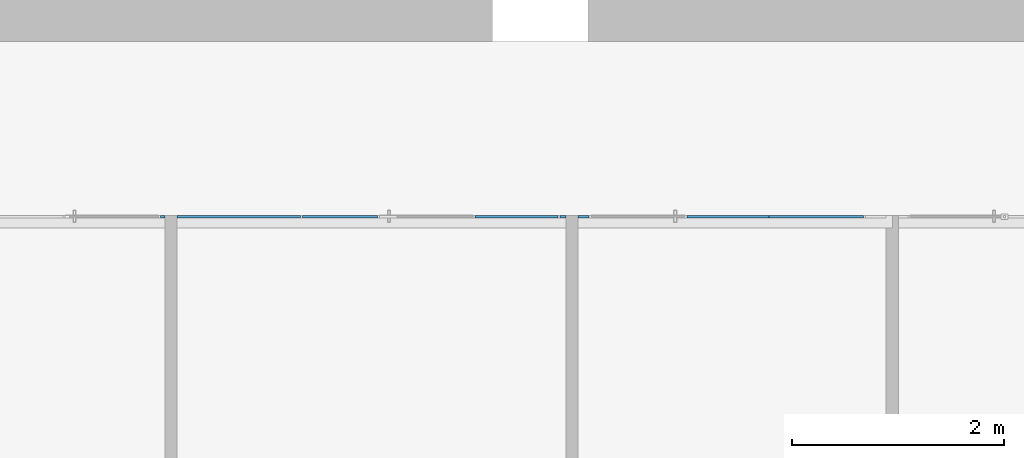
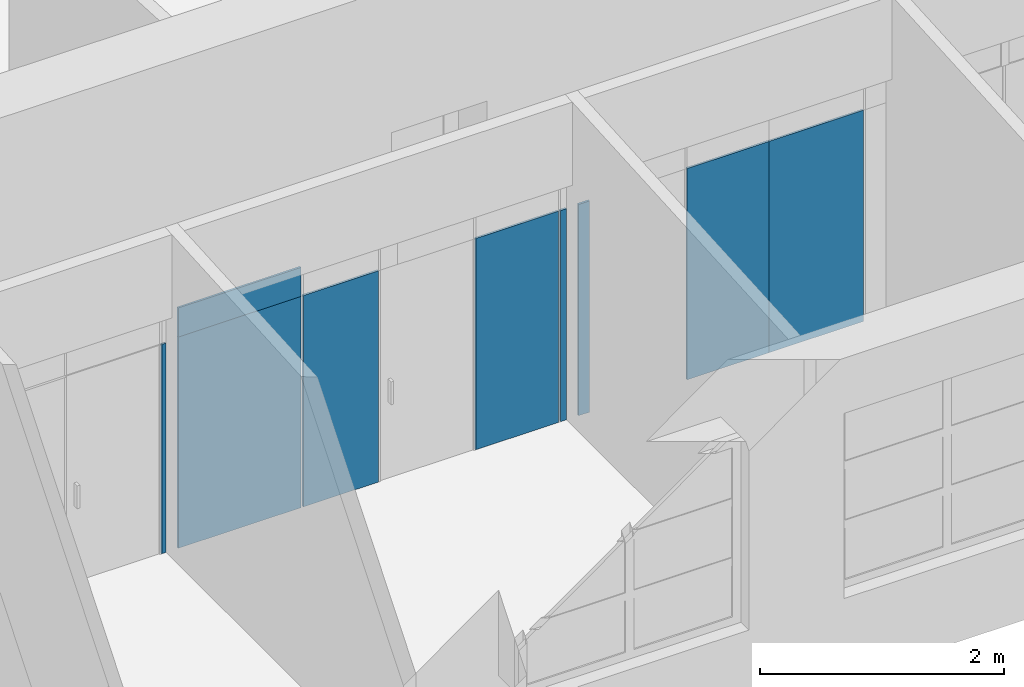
# One storey, part 12 of 46: 9 plates, 3 elements without a shape of their own.
"""IFC2X3 building model written with IfcOpenShell, lengths in millimetres."""

from ifc_helpers import new_model, entity, si_unit, converted_unit, derived_unit, direction, frame, origin, origin_2d_with_axis, place, context, subcontext, project, spatial, rectangle, extrude, source, transform, mapped, material, layer, layer_set, layer_usage, type_object, type_shapes, element, aggregate, save


model = new_model("IFC2X3")

# Units and contexts
model_context = context("Model", 3, precision=0.01, world=origin(), true_north=direction((6.12303176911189e-17, 1.0)))
body_context = subcontext(model_context, "Body", "Model", "MODEL_VIEW")
ifc_project = project(units=[si_unit("LENGTHUNIT", "METRE", prefix="MILLI"), si_unit("AREAUNIT", "SQUARE_METRE"), si_unit("VOLUMEUNIT", "CUBIC_METRE"), converted_unit("PLANEANGLEUNIT", "DEGREE", entity("IfcRatioMeasure", 0.0174532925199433), si_unit("PLANEANGLEUNIT", "RADIAN"), dimensions=[0, 0, 0, 0, 0, 0, 0]), si_unit("MASSUNIT", "GRAM", prefix="KILO"), derived_unit("MASSDENSITYUNIT", [(si_unit("MASSUNIT", "GRAM", prefix="KILO"), 1), (si_unit("LENGTHUNIT", "METRE"), -3)]), si_unit("TIMEUNIT", "SECOND"), si_unit("FREQUENCYUNIT", "HERTZ"), si_unit("THERMODYNAMICTEMPERATUREUNIT", "DEGREE_CELSIUS"), derived_unit("THERMALTRANSMITTANCEUNIT", [(si_unit("MASSUNIT", "GRAM", prefix="KILO"), 1), (si_unit("THERMODYNAMICTEMPERATUREUNIT", "KELVIN"), -1), (si_unit("TIMEUNIT", "SECOND"), -3)]), derived_unit("VOLUMETRICFLOWRATEUNIT", [(si_unit("LENGTHUNIT", "METRE"), 3), (si_unit("TIMEUNIT", "SECOND"), -1)]), si_unit("ELECTRICCURRENTUNIT", "AMPERE"), si_unit("ELECTRICVOLTAGEUNIT", "VOLT"), si_unit("POWERUNIT", "WATT"), si_unit("FORCEUNIT", "NEWTON", prefix="KILO"), si_unit("ILLUMINANCEUNIT", "LUX"), si_unit("LUMINOUSFLUXUNIT", "LUMEN"), si_unit("LUMINOUSINTENSITYUNIT", "CANDELA"), derived_unit("USERDEFINED", [(si_unit("MASSUNIT", "GRAM", prefix="KILO"), -1), (si_unit("LENGTHUNIT", "METRE"), -2), (si_unit("TIMEUNIT", "SECOND"), 3), (si_unit("LUMINOUSFLUXUNIT", "LUMEN"), 1)]), derived_unit("LINEARVELOCITYUNIT", [(si_unit("LENGTHUNIT", "METRE"), 1), (si_unit("TIMEUNIT", "SECOND"), -1)]), si_unit("PRESSUREUNIT", "PASCAL"), derived_unit("USERDEFINED", [(si_unit("LENGTHUNIT", "METRE"), -2), (si_unit("MASSUNIT", "GRAM", prefix="KILO"), 1), (si_unit("TIMEUNIT", "SECOND"), -2)])], contexts=[model_context])

# Site, building, storey
site_placement = place(None, frame((-151.875543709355, 2715.0, 0.0)))
site = spatial("IfcSite", under=ifc_project, at=site_placement, Name="Surface", CompositionType="ELEMENT")
building_placement = place(site_placement, origin())
building = spatial("IfcBuilding", under=site, at=building_placement, CompositionType="ELEMENT")
storey_placement = place(building_placement, frame((0.0, 0.0, 10060.0)))
storey = spatial("IfcBuildingStorey", under=building, at=storey_placement, Name="4 korrus", CompositionType="ELEMENT", Elevation=10060.0000000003)

# Curtain wall, plate
curtain_wall_type_1 = type_object("IfcCurtainWallType", Name="Curtain Wall:Klaassein KLS-26", PredefinedType="NOTDEFINED")
curtain_wall_1_placement = place(storey_placement, frame((0.0, 0.0, -10060.0)))
curtain_wall_1 = element("IfcCurtainWall", 1, at=curtain_wall_1_placement, inside=storey, type_object=curtain_wall_type_1, Name="Curtain Wall:Klaassein KLS-26", ObjectType="Curtain Wall:Klaassein KLS-26")
ifc_material = material(Name="<Unnamed>")
ifc_layer = layer(ifc_material, 20.0)
ifc_layer_set = layer_set([ifc_layer], Name="Curtain Wall:Klaassein KLS-01")
ifc_layer_usage_1 = layer_usage(ifc_layer_set, "AXIS3", "POSITIVE", 0.0)
plate_type_1 = type_object("IfcPlateType", Name="Glazed", PredefinedType="CURTAIN_PANEL", material=ifc_layer_set)
shared_shape_1 = source(origin(), body_context, "Body", "SweptSolid", [
    extrude(rectangle(XDim=20.0, YDim=890.000000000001, at=origin_2d_with_axis()), frame((0.0, 0.0, 0.0), z_axis=(0.0, 0.0, 1.0), x_axis=(0.0, 1.0, 0.0)), (0.0, 0.0, 1.0), 2110.0),
])
type_shapes(plate_type_1, [shared_shape_1])
plate_1_placement = place(curtain_wall_1_placement, frame((15144.5647267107, 4355.19562687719, 10060.0)))
plate_1 = element("IfcPlate", 2, at=plate_1_placement, type_object=plate_type_1, material=ifc_layer_usage_1, Name="System Panel:Glazed", ObjectType="Glazed", context=body_context, shape_type="MappedRepresentation", body=[
    mapped(shared_shape_1, transform((0.0, 0.0, 0.0), scale=1.0)),
])

curtain_wall_type_2 = type_object("IfcCurtainWallType", Name="Curtain Wall:Klaassein KLS-24", PredefinedType="NOTDEFINED")
curtain_wall_2_placement = place(storey_placement, frame((0.0, 0.0, -10060.0)))
curtain_wall_2 = element("IfcCurtainWall", 3, at=curtain_wall_2_placement, inside=storey, type_object=curtain_wall_type_2, Name="Curtain Wall:Klaassein KLS-24", ObjectType="Curtain Wall:Klaassein KLS-24")
ifc_layer_usage_2 = layer_usage(ifc_layer_set, "AXIS3", "POSITIVE", 0.0)
plate_type_2 = type_object("IfcPlateType", Name="Glazed", PredefinedType="CURTAIN_PANEL", material=ifc_layer_set)
shared_shape_2 = source(origin(), body_context, "Body", "SweptSolid", [
    extrude(rectangle(XDim=20.0, YDim=39.9999999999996, at=origin_2d_with_axis()), frame((0.0, 0.0, 0.0), z_axis=(0.0, 0.0, 1.0), x_axis=(0.0, 1.0, 0.0)), (0.0, 0.0, 1.0), 2090.0),
])
type_shapes(plate_type_2, [shared_shape_2])
plate_2_placement = place(curtain_wall_2_placement, frame((8981.56472640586, 4355.0449339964, 10060.0), z_axis=(0.0, 0.0, 1.0), x_axis=(-1.0, 0.0, 0.0)))
plate_2 = element("IfcPlate", 4, at=plate_2_placement, type_object=plate_type_2, material=ifc_layer_usage_2, Name="System Panel:Glazed", ObjectType="Glazed", context=body_context, shape_type="MappedRepresentation", body=[
    mapped(shared_shape_2, transform((0.0, 0.0, 0.0), scale=1.0)),
])
aggregate(curtain_wall_2, [plate_2])

# Plate
ifc_layer_usage_3 = layer_usage(ifc_layer_set, "AXIS3", "POSITIVE", 0.0)
plate_type_3 = type_object("IfcPlateType", Name="Glazed", PredefinedType="CURTAIN_PANEL", material=ifc_layer_set)
shared_shape_3 = source(origin(), body_context, "Body", "SweptSolid", [
    extrude(rectangle(XDim=20.0, YDim=104.000000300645, at=origin_2d_with_axis()), frame((0.0, 0.0, 0.0), z_axis=(0.0, 0.0, 1.0), x_axis=(0.0, 1.0, 0.0)), (0.0, 0.0, 1.0), 2110.0),
])
type_shapes(plate_type_3, [shared_shape_3])
plate_3_placement = place(curtain_wall_1_placement, frame((12951.5647265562, 4355.1956268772, 10060.0)))
plate_3 = element("IfcPlate", 5, at=plate_3_placement, type_object=plate_type_3, material=ifc_layer_usage_3, Name="System Panel:Glazed", ObjectType="Glazed", context=body_context, shape_type="MappedRepresentation", body=[
    mapped(shared_shape_3, transform((0.0, 0.0, 0.0), scale=1.0)),
])

ifc_layer_usage_4 = layer_usage(ifc_layer_set, "AXIS3", "POSITIVE", 0.0)
plate_type_4 = type_object("IfcPlateType", Name="Glazed", PredefinedType="CURTAIN_PANEL", material=ifc_layer_set)
shared_shape_4 = source(origin(), body_context, "Body", "SweptSolid", [
    extrude(rectangle(XDim=20.0, YDim=775.000000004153, at=origin_2d_with_axis()), frame((0.0, 0.0, 0.0), z_axis=(0.0, 0.0, 1.0), x_axis=(0.0, 1.0, 0.0)), (0.0, 0.0, 1.0), 2110.0),
])
type_shapes(plate_type_4, [shared_shape_4])
plate_4_placement = place(curtain_wall_1_placement, frame((14312.0647267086, 4355.1956268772, 10060.0)))
plate_4 = element("IfcPlate", 6, at=plate_4_placement, type_object=plate_type_4, material=ifc_layer_usage_4, Name="System Panel:Glazed", ObjectType="Glazed", context=body_context, shape_type="MappedRepresentation", body=[
    mapped(shared_shape_4, transform((0.0, 0.0, 0.0), scale=1.0)),
])

aggregate(curtain_wall_1, [plate_3, plate_4, plate_1])

# Curtain wall, plates
curtain_wall_type_3 = type_object("IfcCurtainWallType", Name="Curtain Wall:Klaassein KLS-25", PredefinedType="NOTDEFINED")
curtain_wall_3_placement = place(storey_placement, frame((0.0, 0.0, -10060.0)))
curtain_wall_3 = element("IfcCurtainWall", 7, at=curtain_wall_3_placement, inside=storey, type_object=curtain_wall_type_3, Name="Curtain Wall:Klaassein KLS-25", ObjectType="Curtain Wall:Klaassein KLS-25")
ifc_layer_usage_5 = layer_usage(ifc_layer_set, "AXIS3", "POSITIVE", 0.0)
plate_type_5 = type_object("IfcPlateType", Name="Glazed", PredefinedType="CURTAIN_PANEL", material=ifc_layer_set)
shared_shape_5 = source(origin(), body_context, "Body", "SweptSolid", [
    extrude(rectangle(XDim=20.0, YDim=1161.31081940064, at=origin_2d_with_axis()), frame((0.0, 0.0, 0.0), z_axis=(0.0, 0.0, 1.0), x_axis=(0.0, 1.0, 0.0)), (0.0, 0.0, 1.0), 2110.0),
])
type_shapes(plate_type_5, [shared_shape_5])
plate_5_placement = place(curtain_wall_3_placement, frame((9698.22013610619, 4355.19562687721, 10060.0)))
plate_5 = element("IfcPlate", 8, at=plate_5_placement, type_object=plate_type_5, material=ifc_layer_usage_5, Name="System Panel:Glazed", ObjectType="Glazed", context=body_context, shape_type="MappedRepresentation", body=[
    mapped(shared_shape_5, transform((0.0, 0.0, 0.0), scale=1.0)),
])
ifc_layer_usage_6 = layer_usage(ifc_layer_set, "AXIS3", "POSITIVE", 0.0)
plate_type_6 = type_object("IfcPlateType", Name="Glazed", PredefinedType="CURTAIN_PANEL", material=ifc_layer_set)
shared_shape_6 = source(origin(), body_context, "Body", "SweptSolid", [
    extrude(rectangle(XDim=20.0, YDim=708.689180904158, at=origin_2d_with_axis()), frame((0.0, 0.0, 0.0), z_axis=(0.0, 0.0, 1.0), x_axis=(0.0, 1.0, 0.0)), (0.0, 0.0, 1.0), 2110.0),
])
type_shapes(plate_type_6, [shared_shape_6])
plate_6_placement = place(curtain_wall_3_placement, frame((10653.2201362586, 4355.19562687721, 10060.0)))
plate_6 = element("IfcPlate", 9, at=plate_6_placement, type_object=plate_type_6, material=ifc_layer_usage_6, Name="System Panel:Glazed", ObjectType="Glazed", context=body_context, shape_type="MappedRepresentation", body=[
    mapped(shared_shape_6, transform((0.0, 0.0, 0.0), scale=1.0)),
])
ifc_layer_usage_7 = layer_usage(ifc_layer_set, "AXIS3", "POSITIVE", 0.0)
plate_type_7 = type_object("IfcPlateType", Name="Glazed", PredefinedType="CURTAIN_PANEL", material=ifc_layer_set)
shared_shape_7 = source(origin(), body_context, "Body", "SweptSolid", [
    extrude(rectangle(XDim=20.0, YDim=780.0, at=origin_2d_with_axis()), frame((0.0, 0.0, 0.0), z_axis=(0.0, 0.0, 1.0), x_axis=(0.0, 1.0, 0.0)), (0.0, 0.0, 1.0), 2110.0),
])
type_shapes(plate_type_7, [shared_shape_7])
plate_7_placement = place(curtain_wall_3_placement, frame((12317.5647267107, 4355.1956268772, 10060.0)))
plate_7 = element("IfcPlate", 10, at=plate_7_placement, type_object=plate_type_7, material=ifc_layer_usage_7, Name="System Panel:Glazed", ObjectType="Glazed", context=body_context, shape_type="MappedRepresentation", body=[
    mapped(shared_shape_7, transform((0.0, 0.0, 0.0), scale=1.0)),
])
ifc_layer_usage_8 = layer_usage(ifc_layer_set, "AXIS3", "POSITIVE", 0.0)
plate_type_8 = type_object("IfcPlateType", Name="Glazed", PredefinedType="CURTAIN_PANEL", material=ifc_layer_set)
shared_shape_8 = source(origin(), body_context, "Body", "SweptSolid", [
    extrude(rectangle(XDim=20.0, YDim=55.9999996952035, at=origin_2d_with_axis()), frame((0.0, 0.0, 0.0), z_axis=(0.0, 0.0, 1.0), x_axis=(0.0, 1.0, 0.0)), (0.0, 0.0, 1.0), 2110.0),
])
type_shapes(plate_type_8, [shared_shape_8])
plate_8_placement = place(curtain_wall_3_placement, frame((12755.5647265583, 4355.1956268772, 10060.0)))
plate_8 = element("IfcPlate", 11, at=plate_8_placement, type_object=plate_type_8, material=ifc_layer_usage_8, Name="System Panel:Glazed", ObjectType="Glazed", context=body_context, shape_type="MappedRepresentation", body=[
    mapped(shared_shape_8, transform((0.0, 0.0, 0.0), scale=1.0)),
])
ifc_layer_usage_9 = layer_usage(ifc_layer_set, "AXIS3", "POSITIVE", 0.0)
plate_type_9 = type_object("IfcPlateType", Name="Glazed", PredefinedType="CURTAIN_PANEL", material=ifc_layer_set)
shared_shape_9 = source(origin(), body_context, "Body", "SweptSolid", [
    extrude(rectangle(XDim=20.0, YDim=1161.31081940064, at=origin_2d_with_axis()), frame((0.0, 0.0, 0.0), z_axis=(0.0, 0.0, 1.0), x_axis=(0.0, 1.0, 0.0)), (0.0, 0.0, 1.0), 289.999999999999),
])
type_shapes(plate_type_9, [shared_shape_9])
plate_9_placement = place(curtain_wall_3_placement, frame((9698.22013610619, 4355.19562687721, 12170.0)))
plate_9 = element("IfcPlate", 12, at=plate_9_placement, type_object=plate_type_9, material=ifc_layer_usage_9, Name="System Panel:Glazed", ObjectType="Glazed", context=body_context, shape_type="MappedRepresentation", body=[
    mapped(shared_shape_9, transform((0.0, 0.0, 0.0), scale=1.0)),
])
aggregate(curtain_wall_3, [plate_5, plate_6, plate_7, plate_8, plate_9])

save(model, "model.ifc")
